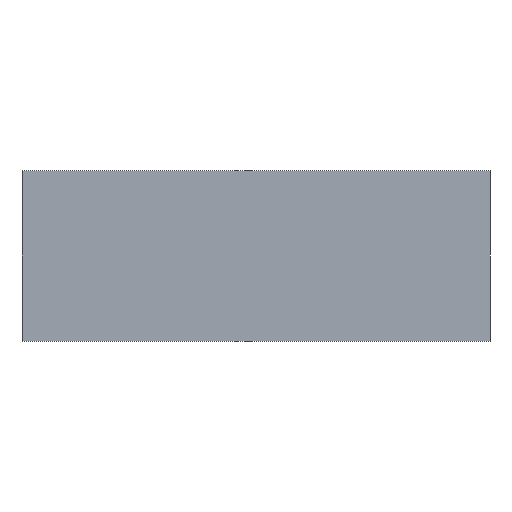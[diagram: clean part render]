
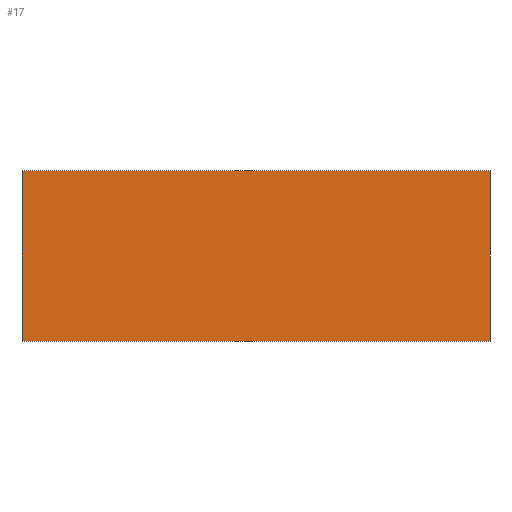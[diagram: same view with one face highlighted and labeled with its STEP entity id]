
A CAD part, left-side view. The second image highlights one B-rep face of the part: STEP entity #17.
In plain terms, the highlighted planar face has unit normal (-1, 0, 0).
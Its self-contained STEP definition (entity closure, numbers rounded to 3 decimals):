
#17 = ADVANCED_FACE('',(#18),#32,.F.);
#18 = FACE_BOUND('',#19,.F.);
#19 = EDGE_LOOP('',(#20,#55,#83,#111));
#20 = ORIENTED_EDGE('',*,*,#21,.F.);
#21 = EDGE_CURVE('',#22,#24,#26,.T.);
#22 = VERTEX_POINT('',#23);
#23 = CARTESIAN_POINT('',(216.5,-70.,36.74));
#24 = VERTEX_POINT('',#25);
#25 = CARTESIAN_POINT('',(216.5,-70.,87.74));
#26 = SURFACE_CURVE('',#27,(#31,#43),.PCURVE_S1.);
#27 = LINE('',#28,#29);
#28 = CARTESIAN_POINT('',(216.5,-70.,36.74));
#29 = VECTOR('',#30,1.);
#30 = DIRECTION('',(0.,0.,1.));
#31 = PCURVE('',#32,#37);
#32 = PLANE('',#33);
#33 = AXIS2_PLACEMENT_3D('',#34,#35,#36);
#34 = CARTESIAN_POINT('',(216.5,-70.,36.74));
#35 = DIRECTION('',(1.,0.,0.));
#36 = DIRECTION('',(0.,0.,1.));
#37 = DEFINITIONAL_REPRESENTATION('',(#38),#42);
#38 = LINE('',#39,#40);
#39 = CARTESIAN_POINT('',(0.,0.));
#40 = VECTOR('',#41,1.);
#41 = DIRECTION('',(1.,0.));
#42 = ( GEOMETRIC_REPRESENTATION_CONTEXT(2) 
PARAMETRIC_REPRESENTATION_CONTEXT() REPRESENTATION_CONTEXT('2D SPACE',''
  ) );
#43 = PCURVE('',#44,#49);
#44 = PLANE('',#45);
#45 = AXIS2_PLACEMENT_3D('',#46,#47,#48);
#46 = CARTESIAN_POINT('',(216.5,-70.,36.74));
#47 = DIRECTION('',(0.,1.,0.));
#48 = DIRECTION('',(0.,0.,1.));
#49 = DEFINITIONAL_REPRESENTATION('',(#50),#54);
#50 = LINE('',#51,#52);
#51 = CARTESIAN_POINT('',(0.,0.));
#52 = VECTOR('',#53,1.);
#53 = DIRECTION('',(1.,0.));
#54 = ( GEOMETRIC_REPRESENTATION_CONTEXT(2) 
PARAMETRIC_REPRESENTATION_CONTEXT() REPRESENTATION_CONTEXT('2D SPACE',''
  ) );
#55 = ORIENTED_EDGE('',*,*,#56,.T.);
#56 = EDGE_CURVE('',#22,#57,#59,.T.);
#57 = VERTEX_POINT('',#58);
#58 = CARTESIAN_POINT('',(216.5,70.,36.74));
#59 = SURFACE_CURVE('',#60,(#64,#71),.PCURVE_S1.);
#60 = LINE('',#61,#62);
#61 = CARTESIAN_POINT('',(216.5,-70.,36.74));
#62 = VECTOR('',#63,1.);
#63 = DIRECTION('',(0.,1.,0.));
#64 = PCURVE('',#32,#65);
#65 = DEFINITIONAL_REPRESENTATION('',(#66),#70);
#66 = LINE('',#67,#68);
#67 = CARTESIAN_POINT('',(0.,0.));
#68 = VECTOR('',#69,1.);
#69 = DIRECTION('',(0.,-1.));
#70 = ( GEOMETRIC_REPRESENTATION_CONTEXT(2) 
PARAMETRIC_REPRESENTATION_CONTEXT() REPRESENTATION_CONTEXT('2D SPACE',''
  ) );
#71 = PCURVE('',#72,#77);
#72 = PLANE('',#73);
#73 = AXIS2_PLACEMENT_3D('',#74,#75,#76);
#74 = CARTESIAN_POINT('',(216.5,-70.,36.74));
#75 = DIRECTION('',(0.,0.,1.));
#76 = DIRECTION('',(1.,0.,0.));
#77 = DEFINITIONAL_REPRESENTATION('',(#78),#82);
#78 = LINE('',#79,#80);
#79 = CARTESIAN_POINT('',(0.,0.));
#80 = VECTOR('',#81,1.);
#81 = DIRECTION('',(0.,1.));
#82 = ( GEOMETRIC_REPRESENTATION_CONTEXT(2) 
PARAMETRIC_REPRESENTATION_CONTEXT() REPRESENTATION_CONTEXT('2D SPACE',''
  ) );
#83 = ORIENTED_EDGE('',*,*,#84,.T.);
#84 = EDGE_CURVE('',#57,#85,#87,.T.);
#85 = VERTEX_POINT('',#86);
#86 = CARTESIAN_POINT('',(216.5,70.,87.74));
#87 = SURFACE_CURVE('',#88,(#92,#99),.PCURVE_S1.);
#88 = LINE('',#89,#90);
#89 = CARTESIAN_POINT('',(216.5,70.,36.74));
#90 = VECTOR('',#91,1.);
#91 = DIRECTION('',(0.,0.,1.));
#92 = PCURVE('',#32,#93);
#93 = DEFINITIONAL_REPRESENTATION('',(#94),#98);
#94 = LINE('',#95,#96);
#95 = CARTESIAN_POINT('',(0.,-140.));
#96 = VECTOR('',#97,1.);
#97 = DIRECTION('',(1.,0.));
#98 = ( GEOMETRIC_REPRESENTATION_CONTEXT(2) 
PARAMETRIC_REPRESENTATION_CONTEXT() REPRESENTATION_CONTEXT('2D SPACE',''
  ) );
#99 = PCURVE('',#100,#105);
#100 = PLANE('',#101);
#101 = AXIS2_PLACEMENT_3D('',#102,#103,#104);
#102 = CARTESIAN_POINT('',(216.5,70.,36.74));
#103 = DIRECTION('',(0.,1.,0.));
#104 = DIRECTION('',(0.,0.,1.));
#105 = DEFINITIONAL_REPRESENTATION('',(#106),#110);
#106 = LINE('',#107,#108);
#107 = CARTESIAN_POINT('',(0.,0.));
#108 = VECTOR('',#109,1.);
#109 = DIRECTION('',(1.,0.));
#110 = ( GEOMETRIC_REPRESENTATION_CONTEXT(2) 
PARAMETRIC_REPRESENTATION_CONTEXT() REPRESENTATION_CONTEXT('2D SPACE',''
  ) );
#111 = ORIENTED_EDGE('',*,*,#112,.F.);
#112 = EDGE_CURVE('',#24,#85,#113,.T.);
#113 = SURFACE_CURVE('',#114,(#118,#125),.PCURVE_S1.);
#114 = LINE('',#115,#116);
#115 = CARTESIAN_POINT('',(216.5,-70.,87.74));
#116 = VECTOR('',#117,1.);
#117 = DIRECTION('',(0.,1.,0.));
#118 = PCURVE('',#32,#119);
#119 = DEFINITIONAL_REPRESENTATION('',(#120),#124);
#120 = LINE('',#121,#122);
#121 = CARTESIAN_POINT('',(51.,0.));
#122 = VECTOR('',#123,1.);
#123 = DIRECTION('',(0.,-1.));
#124 = ( GEOMETRIC_REPRESENTATION_CONTEXT(2) 
PARAMETRIC_REPRESENTATION_CONTEXT() REPRESENTATION_CONTEXT('2D SPACE',''
  ) );
#125 = PCURVE('',#126,#131);
#126 = PLANE('',#127);
#127 = AXIS2_PLACEMENT_3D('',#128,#129,#130);
#128 = CARTESIAN_POINT('',(216.5,-70.,87.74));
#129 = DIRECTION('',(0.,0.,1.));
#130 = DIRECTION('',(1.,0.,0.));
#131 = DEFINITIONAL_REPRESENTATION('',(#132),#136);
#132 = LINE('',#133,#134);
#133 = CARTESIAN_POINT('',(0.,0.));
#134 = VECTOR('',#135,1.);
#135 = DIRECTION('',(0.,1.));
#136 = ( GEOMETRIC_REPRESENTATION_CONTEXT(2) 
PARAMETRIC_REPRESENTATION_CONTEXT() REPRESENTATION_CONTEXT('2D SPACE',''
  ) );
